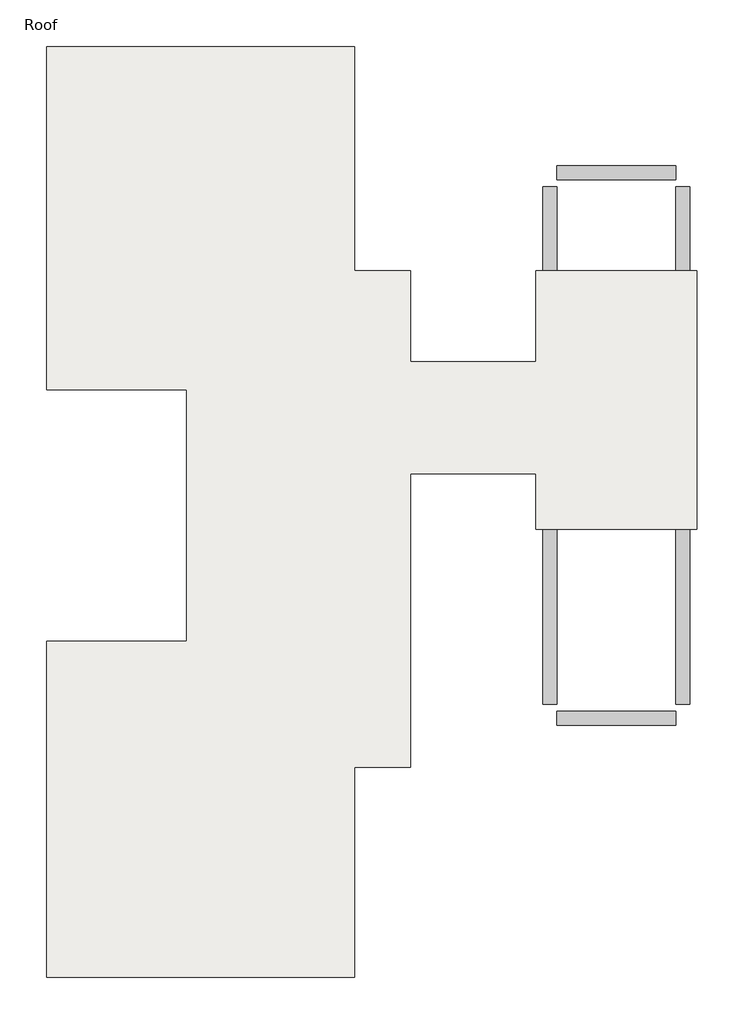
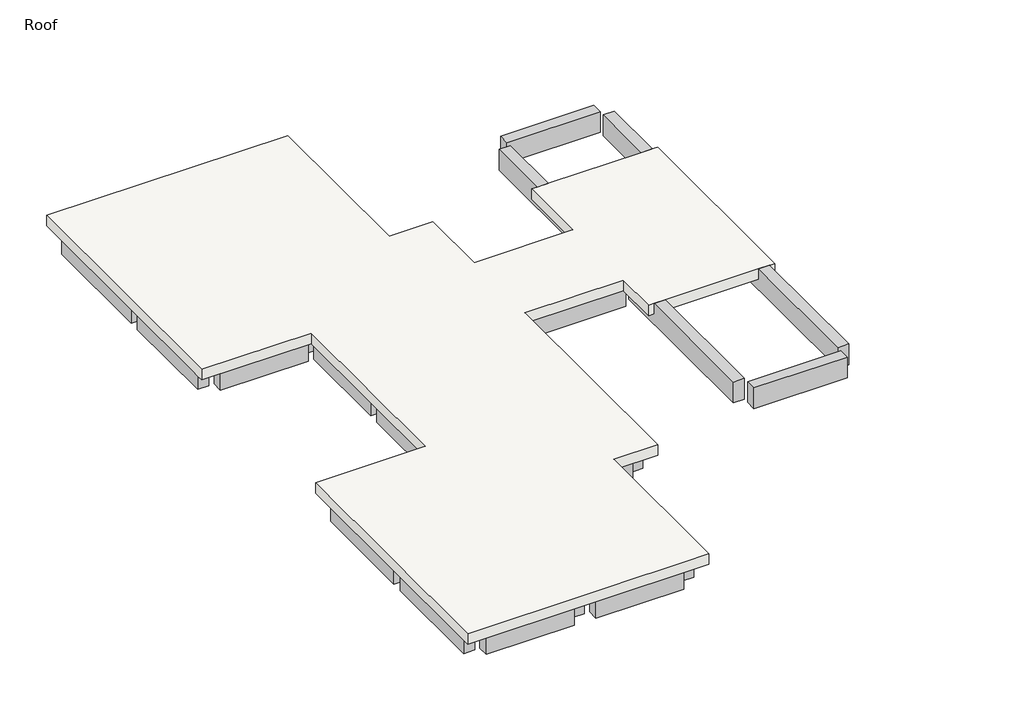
# One storey: 45 beams, 1 slab.
"""IFC4 building model written with IfcOpenShell, lengths in millimetres."""

import ifcopenshell
import ifcopenshell.guid

model = None  # the IFC model being written
_history = None  # IfcOwnerHistory: only IFC2X3 demands one
_inside = {}  # id of a spatial element -> (the spatial element, [elements in it])
_under = {}  # id of a project, library or spatial element -> (it, [spatial elements below it])
_declared = {}  # id of a project -> (the project, [libraries it declares])
_typed = {}  # id of a type object -> (the type object, [elements of that type])
_made_of = {}  # id of a material, layer set ... -> (it, [elements and type objects made of it])


def new_model(schema):
    """Start an empty IFC model of exactly this schema.

    Asked for "IFC4X3", IfcOpenShell would pick the latest addendum, in which some entities
    have other attributes; the version numbers below select the first issue.
    IFC2X3 requires an IfcOwnerHistory on every rooted entity: one is made here for all.
    """
    global model, _history
    if schema == "IFC4X3":
        model = ifcopenshell.file(schema_version=(4, 3, 0, 0))
    else:
        model = ifcopenshell.file(schema=schema)
    _inside.clear()
    _under.clear()
    _declared.clear()
    _typed.clear()
    _made_of.clear()
    _history = None
    if model.schema == "IFC2X3":
        org = make("IfcOrganization", Name="unknown")
        user = make(
            "IfcPersonAndOrganization",
            ThePerson=make("IfcPerson", FamilyName="unknown"),
            TheOrganization=org,
        )
        app = make(
            "IfcApplication",
            ApplicationDeveloper=org,
            Version="unknown",
            ApplicationFullName="unknown",
            ApplicationIdentifier="unknown",
        )
        _history = make(
            "IfcOwnerHistory",
            OwningUser=user,
            OwningApplication=app,
            ChangeAction="ADDED",
            CreationDate=0,
        )
    return model


def make(cls, **values):
    """One entity of the class cls with the attributes given. An attribute that is None is left unset."""
    return model.create_entity(
        cls, **{name: value for name, value in values.items() if value is not None}
    )


def rooted(cls, **values):
    """An entity with a GlobalId (a new one), such as an element, a storey or a relation."""
    return make(cls, GlobalId=ifcopenshell.guid.new(), OwnerHistory=_history, **values)


def si_unit(unit_type, name, prefix=None):
    """IfcSIUnit, for example si_unit("LENGTHUNIT", "METRE", prefix="MILLI")."""
    return make("IfcSIUnit", UnitType=unit_type, Prefix=prefix, Name=name)


def assignment(units):
    """IfcUnitAssignment: the units of a project."""
    return None if units is None else make("IfcUnitAssignment", Units=units)


def point(xyz):
    """IfcCartesianPoint."""
    return None if xyz is None else make("IfcCartesianPoint", Coordinates=xyz)


def direction(xyz):
    """IfcDirection."""
    return None if xyz is None else make("IfcDirection", DirectionRatios=xyz)


def frame(location, z_axis=None, x_axis=None):
    """IfcAxis2Placement3D, a coordinate frame: its origin and axes. An axis left out is left unset."""
    return make(
        "IfcAxis2Placement3D",
        Location=point(location),
        Axis=direction(z_axis),
        RefDirection=direction(x_axis),
    )


def origin():
    """The frame at (0, 0, 0) with its axes left unset."""
    return frame((0.0, 0.0, 0.0))


def place(relative_to, where):
    """IfcLocalPlacement: puts the frame where relative to a parent placement (None: the world)."""
    return make(
        "IfcLocalPlacement", PlacementRelTo=relative_to, RelativePlacement=where
    )


def context(
    kind, dimensions, precision=None, world=None, true_north=None, identifier=None
):
    """IfcGeometricRepresentationContext, for example the 3D "Model" context."""
    return make(
        "IfcGeometricRepresentationContext",
        ContextIdentifier=identifier,
        ContextType=kind,
        CoordinateSpaceDimension=dimensions,
        Precision=precision,
        WorldCoordinateSystem=world,
        TrueNorth=true_north,
    )


def project(units=None, contexts=None):
    """IfcProject with its units and contexts."""
    return rooted(
        "IfcProject",
        Name="project",
        RepresentationContexts=contexts,
        UnitsInContext=assignment(units),
    )


def spatial(cls, under=None, at=None, **own):
    """A site, building, storey or space (cls), placed at a placement, below another one or the project."""
    s = rooted(cls, ObjectPlacement=at, **own)
    if under is not None:
        _under.setdefault(under.id(), (under, []))[1].append(s)
    return s


def polyline(points):
    """IfcPolyline through the points."""
    return make("IfcPolyline", Points=[point(p) for p in points])


def outline(outer, holes=None, kind="AREA"):
    """IfcArbitraryClosedProfileDef: a profile drawn as a closed curve; with holes, ...WithVoids."""
    if holes is None:
        return make("IfcArbitraryClosedProfileDef", ProfileType=kind, OuterCurve=outer)
    return make(
        "IfcArbitraryProfileDefWithVoids",
        ProfileType=kind,
        OuterCurve=outer,
        InnerCurves=holes,
    )


def extrude(swept, where, along, depth):
    """IfcExtrudedAreaSolid: the profile swept, set in the frame where, extruded along a direction by depth."""
    return make(
        "IfcExtrudedAreaSolid",
        SweptArea=swept,
        Position=where,
        ExtrudedDirection=direction(along),
        Depth=depth,
    )


def faces_of(points, faces, orient=None, outer=None):
    """IfcFace entities. A face is a list of loops; a loop is a list of indices into points, from 0.

    orient and outer hold one flag for each loop. By default every Orientation is true, the
    first loop of a face is its IfcFaceOuterBound and the others are IfcFaceBound.
    """
    made = []
    for i, loops in enumerate(faces):
        bounds = []
        for j, loop in enumerate(loops):
            is_outer = j == 0 if outer is None else outer[i][j]
            bounds.append(
                make(
                    "IfcFaceOuterBound" if is_outer else "IfcFaceBound",
                    Bound=make("IfcPolyLoop", Polygon=[points[k] for k in loop]),
                    Orientation=True if orient is None else orient[i][j],
                )
            )
        made.append(make("IfcFace", Bounds=bounds))
    return made


def faceted_brep(points, faces, orient=None, outer=None, voids=None):
    """IfcFacetedBrep: a solid bounded by flat faces; with voids (closed shells), ...WithVoids."""
    shared = [point(p) for p in points]
    hull = make("IfcClosedShell", CfsFaces=faces_of(shared, faces, orient, outer))
    if voids is None:
        return make("IfcFacetedBrep", Outer=hull)
    return make(
        "IfcFacetedBrepWithVoids",
        Outer=hull,
        Voids=[
            make(cls, CfsFaces=faces_of(shared, fs, o, b)) for cls, fs, o, b in voids
        ],
    )


def shape(context_of_items, identifier, shape_type, items):
    """IfcShapeRepresentation: the items that make up one representation, for example the "Body"."""
    return make(
        "IfcShapeRepresentation",
        ContextOfItems=context_of_items,
        RepresentationIdentifier=identifier,
        RepresentationType=shape_type,
        Items=items,
    )


def made_of(thing, what):
    """Note that an element or type object is made of a material, layer set ...; save() writes the relation."""
    if what is not None:
        _made_of.setdefault(what.id(), (what, []))[1].append(thing)
    return thing


def element(
    cls,
    number,
    at=None,
    inside=None,
    cuts=None,
    type_object=None,
    material=None,
    context=None,
    identifier="Body",
    shape_type=None,
    held_by="IfcProductDefinitionShape",
    body=None,
    shapes=None,
    **own,
):
    """One element of the class cls, such as IfcWall. Its Tag is "e" and its number.

    at: its placement. inside: the storey or other place that contains it. cuts: it is an
    opening in that element (IfcRelVoidsElement). A single representation is given by context,
    identifier, shape_type and body (its items); several are given by shapes. held_by: the class
    of the entity that holds the representations. save() writes the other relations.
    """
    e = rooted(cls, Tag="e%d" % number, ObjectPlacement=at, **own)
    if body is not None:
        shapes = [shape(context, identifier, shape_type, body)]
    if shapes is not None:
        e.Representation = make(held_by, Representations=shapes)
    if inside is not None:
        _inside.setdefault(inside.id(), (inside, []))[1].append(e)
    if cuts is not None:
        rooted(
            "IfcRelVoidsElement", RelatingBuildingElement=cuts, RelatedOpeningElement=e
        )
    if type_object is not None:
        _typed.setdefault(type_object.id(), (type_object, []))[1].append(e)
    return made_of(e, material)


def aggregate(whole, parts):
    """IfcRelAggregates: a whole, such as a stair, and the parts it consists of."""
    return rooted("IfcRelAggregates", RelatingObject=whole, RelatedObjects=parts)


def save(model, path):
    """Write the relations noted so far, then the file.

    IfcRelAggregates (storeys below a building ...), IfcRelContainedInSpatialStructure (elements
    in a storey), IfcRelDefinesByType, IfcRelAssociatesMaterial and IfcRelDeclares: one each for
    every whole, place, type object, material and project.
    """
    for whole, parts in _under.values():
        aggregate(whole, parts)
    for where, things in _inside.values():
        rooted(
            "IfcRelContainedInSpatialStructure",
            RelatedElements=things,
            RelatingStructure=where,
        )
    for kind, things in _typed.values():
        rooted("IfcRelDefinesByType", RelatedObjects=things, RelatingType=kind)
    for what, things in _made_of.values():
        rooted("IfcRelAssociatesMaterial", RelatedObjects=things, RelatingMaterial=what)
    for by, libraries in _declared.values():
        rooted("IfcRelDeclares", RelatingContext=by, RelatedDefinitions=libraries)
    model.write(path)


model = new_model("IFC4")

# Units and contexts
model_context = context("Model", 3, world=origin())
ifc_project = project(units=[si_unit("LENGTHUNIT", "METRE", prefix="MILLI")], contexts=[model_context])

# Site, building, storey
site = spatial("IfcSite", under=ifc_project)
building = spatial("IfcBuilding", under=site)
storey = spatial("IfcBuildingStorey", under=building, Name="Roof", Elevation=7620.0)

# Beams
placement = place(None, origin())
element("IfcBeam", 1, ObjectType="Concrete-Rectangular Beam : 12 x 24", at=placement, inside=storey, context=model_context, shape_type="SweptSolid", body=[
    extrude(outline(polyline([(-12919.1663981, 10274.1487848), (-12919.1663981, 9969.3487848), (-15357.5663981, 9969.3487848), (-15357.5663981, 10274.1487848), (-12919.1663981, 10274.1487848)])), frame((0.0, 0.0, 6705.6), z_axis=(0.0, 0.0, 1.0), x_axis=(1.0, 0.0, 0.0)), (0.0, 0.0, 1.0), 609.6),
])
element("IfcBeam", 2, ObjectType="Concrete-Rectangular Beam : 12 x 24", at=placement, inside=storey, context=model_context, shape_type="SweptSolid", body=[
    extrude(outline(polyline([(-9871.1663981, 10274.1487848), (-9871.1663981, 9969.3487848), (-12309.5663981, 9969.3487848), (-12309.5663981, 10274.1487848), (-9871.1663981, 10274.1487848)])), frame((0.0, 0.0, 6705.6), z_axis=(0.0, 0.0, 1.0), x_axis=(1.0, 0.0, 0.0)), (0.0, 0.0, 1.0), 609.6),
])
element("IfcBeam", 3, ObjectType="Concrete-Rectangular Beam : 12 x 24", at=placement, inside=storey, context=model_context, shape_type="SweptSolid", body=[
    extrude(outline(polyline([(-15509.9663981, 6616.5487848), (-15814.7663981, 6616.5487848), (-15814.7663981, 9969.3487848), (-15509.9663981, 9969.3487848), (-15509.9663981, 6616.5487848)])), frame((0.0, 0.0, 6705.6), z_axis=(0.0, 0.0, 1.0), x_axis=(1.0, 0.0, 0.0)), (0.0, 0.0, 1.0), 609.6),
])
element("IfcBeam", 4, ObjectType="Concrete-Rectangular Beam : 12 x 24", at=placement, inside=storey, context=model_context, shape_type="SweptSolid", body=[
    extrude(outline(polyline([(-15509.9663981, 3416.1487848), (-15814.7663981, 3416.1487848), (-15814.7663981, 6311.7487848), (-15509.9663981, 6311.7487848), (-15509.9663981, 3416.1487848)])), frame((0.0, 0.0, 6705.6), z_axis=(0.0, 0.0, 1.0), x_axis=(1.0, 0.0, 0.0)), (0.0, 0.0, 1.0), 609.6),
])
element("IfcBeam", 5, ObjectType="Concrete-Rectangular Beam : 12 x 24", at=placement, inside=storey, context=model_context, shape_type="SweptSolid", body=[
    extrude(outline(polyline([(-9413.9663981, 6616.5487848), (-9718.7663981, 6616.5487848), (-9718.7663981, 9969.3487848), (-9413.9663981, 9969.3487848), (-9413.9663981, 6616.5487848)])), frame((0.0, 0.0, 6705.6), z_axis=(0.0, 0.0, 1.0), x_axis=(1.0, 0.0, 0.0)), (0.0, 0.0, 1.0), 609.6),
])
element("IfcBeam", 6, ObjectType="Concrete-Rectangular Beam : 12 x 24", at=placement, inside=storey, context=model_context, shape_type="SweptSolid", body=[
    extrude(outline(polyline([(-12461.9663981, 6616.5487848), (-12766.7663981, 6616.5487848), (-12766.7663981, 9969.3487848), (-12461.9663981, 9969.3487848), (-12461.9663981, 6616.5487848)])), frame((0.0, 0.0, 6705.6), z_axis=(0.0, 0.0, 1.0), x_axis=(1.0, 0.0, 0.0)), (0.0, 0.0, 1.0), 609.6),
])
element("IfcBeam", 7, ObjectType="Concrete-Rectangular Beam : 12 x 24", at=placement, inside=storey, context=model_context, shape_type="SweptSolid", body=[
    extrude(outline(polyline([(-12919.1663981, 6616.5487848), (-12919.1663981, 6311.7487848), (-15357.5663981, 6311.7487848), (-15357.5663981, 6616.5487848), (-12919.1663981, 6616.5487848)])), frame((0.0, 0.0, 6705.6), z_axis=(0.0, 0.0, 1.0), x_axis=(1.0, 0.0, 0.0)), (0.0, 0.0, 1.0), 609.6),
])
element("IfcBeam", 8, ObjectType="Concrete-Rectangular Beam : 12 x 24", at=placement, inside=storey, context=model_context, shape_type="SweptSolid", body=[
    extrude(outline(polyline([(-9871.1663981, 6616.5487848), (-9871.1663981, 6311.7487848), (-12309.5663981, 6311.7487848), (-12309.5663981, 6616.5487848), (-9871.1663981, 6616.5487848)])), frame((0.0, 0.0, 6705.6), z_axis=(0.0, 0.0, 1.0), x_axis=(1.0, 0.0, 0.0)), (0.0, 0.0, 1.0), 609.6),
])
element("IfcBeam", 9, ObjectType="Concrete-Rectangular Beam : 12 x 24", at=placement, inside=storey, context=model_context, shape_type="SweptSolid", body=[
    extrude(outline(polyline([(-12919.1663981, 3416.1487848), (-12919.1663981, 3111.3487848), (-15357.5663981, 3111.3487848), (-15357.5663981, 3416.1487848), (-12919.1663981, 3416.1487848)])), frame((0.0, 0.0, 6705.6), z_axis=(0.0, 0.0, 1.0), x_axis=(1.0, 0.0, 0.0)), (0.0, 0.0, 1.0), 609.6),
])
element("IfcBeam", 10, ObjectType="Concrete-Rectangular Beam : 12 x 24", at=placement, inside=storey, context=model_context, shape_type="SweptSolid", body=[
    extrude(outline(polyline([(-8651.9663981, 3416.1487848), (-8651.9663981, 3111.3487848), (-12309.5663981, 3111.3487848), (-12309.5663981, 3416.1487848), (-8651.9663981, 3416.1487848)])), frame((0.0, 0.0, 6705.6), z_axis=(0.0, 0.0, 1.0), x_axis=(1.0, 0.0, 0.0)), (0.0, 0.0, 1.0), 609.6),
])
element("IfcBeam", 11, ObjectType="Concrete-Rectangular Beam : 12 x 24", at=placement, inside=storey, context=model_context, shape_type="Brep", body=[
    faceted_brep([(-8651.9663981, 5092.5487848, 7315.2), (-8651.9663981, 5397.3487848, 7315.2), (-9413.9663981, 5397.3487848, 7315.2), (-9718.7663981, 5397.3487848, 7315.2), (-9718.7663981, 5092.5487848, 7315.2), (-8651.9663981, 5397.3487848, 6705.6), (-9413.9663981, 5397.3487848, 6705.6), (-9718.7663981, 5397.3487848, 6705.6), (-8651.9663981, 5092.5487848, 6705.6), (-9718.7663981, 5092.5487848, 6705.6)], [[[0, 1, 2, 3, 4]], [[1, 5, 6, 7, 3, 2]], [[5, 8, 9, 7, 6]], [[8, 0, 4, 9]], [[0, 8, 5, 1]], [[4, 3, 7, 9]]]),
])
element("IfcBeam", 12, ObjectType="Concrete-Rectangular Beam : 12 x 24", at=placement, inside=storey, context=model_context, shape_type="SweptSolid", body=[
    extrude(outline(polyline([(-9718.7663981, 6311.7487848), (-9413.9663981, 6311.7487848), (-9413.9663981, 5397.3487848), (-9718.7663981, 5397.3487848), (-9718.7663981, 6311.7487848)])), frame((0.0, 0.0, 6705.6), z_axis=(0.0, 0.0, 1.0), x_axis=(1.0, 0.0, 0.0)), (0.0, 0.0, 1.0), 609.6),
])
element("IfcBeam", 13, ObjectType="Concrete-Rectangular Beam : 12 x 24", at=placement, inside=storey, context=model_context, shape_type="SweptSolid", body=[
    extrude(outline(polyline([(-8194.7663981, 3416.1487848), (-8499.5663981, 3416.1487848), (-8499.5663981, 5092.5487848), (-8194.7663981, 5092.5487848), (-8194.7663981, 3416.1487848)])), frame((0.0, 0.0, 6705.6), z_axis=(0.0, 0.0, 1.0), x_axis=(1.0, 0.0, 0.0)), (0.0, 0.0, 1.0), 609.6),
])
element("IfcBeam", 14, ObjectType="Concrete-Rectangular Beam : 12 x 24", at=placement, inside=storey, context=model_context, shape_type="SweptSolid", body=[
    extrude(outline(polyline([(-12461.9663981, 3416.1487848), (-12766.7663981, 3416.1487848), (-12766.7663981, 6311.7487848), (-12461.9663981, 6311.7487848), (-12461.9663981, 3416.1487848)])), frame((0.0, 0.0, 6705.6), z_axis=(0.0, 0.0, 1.0), x_axis=(1.0, 0.0, 0.0)), (0.0, 0.0, 1.0), 609.6),
])
element("IfcBeam", 15, ObjectType="Concrete-Rectangular Beam : 12 x 24", at=placement, inside=storey, context=model_context, shape_type="SweptSolid", body=[
    extrude(outline(polyline([(-8042.3663981, 3111.3487848), (-8042.3663981, 3416.1487848), (-5146.7663981, 3416.1487848), (-5146.7663981, 3111.3487848), (-8042.3663981, 3111.3487848)])), frame((0.0, 0.0, 6705.6), z_axis=(0.0, 0.0, 1.0), x_axis=(1.0, 0.0, 0.0)), (0.0, 0.0, 1.0), 609.6),
])
element("IfcBeam", 16, ObjectType="Concrete-Rectangular Beam : 12 x 24", at=placement, inside=storey, context=model_context, shape_type="Brep", body=[
    faceted_brep([(-8499.5663981, 368.1487848, 7315.2), (-8194.7663981, 368.1487848, 7315.2), (-8194.7663981, 1282.5487848, 7315.2), (-8194.7663981, 1587.3487848, 7315.2), (-8194.7663981, 3111.3487848, 7315.2), (-8499.5663981, 3111.3487848, 7315.2), (-8499.5663981, 368.1487848, 6705.6), (-8499.5663981, 3111.3487848, 6705.6), (-8194.7663981, 368.1487848, 6705.6), (-8194.7663981, 3111.3487848, 6705.6), (-8194.7663981, 1587.3487848, 6705.6), (-8194.7663981, 1282.5487848, 6705.6)], [[[0, 1, 2, 3, 4, 5]], [[6, 0, 5, 7]], [[8, 6, 7, 9, 10, 11]], [[1, 8, 11, 10, 9, 4, 3, 2]], [[4, 9, 7, 5]], [[1, 0, 6, 8]]]),
])
element("IfcBeam", 17, ObjectType="Concrete-Rectangular Beam : 12 x 24", at=placement, inside=storey, context=model_context, shape_type="SweptSolid", body=[
    extrude(outline(polyline([(-8194.7663981, -2679.8512152), (-8499.5663981, -2679.8512152), (-8499.5663981, 63.3487848), (-8194.7663981, 63.3487848), (-8194.7663981, -2679.8512152)])), frame((0.0, 0.0, 6705.6), z_axis=(0.0, 0.0, 1.0), x_axis=(1.0, 0.0, 0.0)), (0.0, 0.0, 1.0), 609.6),
])
element("IfcBeam", 18, ObjectType="Concrete-Rectangular Beam : 12 x 24", at=placement, inside=storey, context=model_context, shape_type="SweptSolid", body=[
    extrude(outline(polyline([(-8194.7663981, -4813.4512152), (-8499.5663981, -4813.4512152), (-8499.5663981, -2984.6512152), (-8194.7663981, -2984.6512152), (-8194.7663981, -4813.4512152)])), frame((0.0, 0.0, 6705.6), z_axis=(0.0, 0.0, 1.0), x_axis=(1.0, 0.0, 0.0)), (0.0, 0.0, 1.0), 609.6),
])
element("IfcBeam", 19, ObjectType="Concrete-Rectangular Beam : 12 x 24", at=placement, inside=storey, context=model_context, shape_type="SweptSolid", body=[
    extrude(outline(polyline([(-8194.7663981, 1282.5487848), (-8194.7663981, 1587.3487848), (-5146.7663981, 1587.3487848), (-5146.7663981, 1282.5487848), (-8194.7663981, 1282.5487848)])), frame((0.0, 0.0, 6705.6), z_axis=(0.0, 0.0, 1.0), x_axis=(1.0, 0.0, 0.0)), (0.0, 0.0, 1.0), 609.6),
])
element("IfcBeam", 20, ObjectType="Concrete-Rectangular Beam : 12 x 24", at=placement, inside=storey, context=model_context, shape_type="SweptSolid", body=[
    extrude(outline(polyline([(-12461.9663981, 368.1487848), (-12766.7663981, 368.1487848), (-12766.7663981, 3111.3487848), (-12461.9663981, 3111.3487848), (-12461.9663981, 368.1487848)])), frame((0.0, 0.0, 6705.6), z_axis=(0.0, 0.0, 1.0), x_axis=(1.0, 0.0, 0.0)), (0.0, 0.0, 1.0), 609.6),
])
element("IfcBeam", 21, ObjectType="Concrete-Rectangular Beam : 12 x 24", at=placement, inside=storey, context=model_context, shape_type="SweptSolid", body=[
    extrude(outline(polyline([(-12461.9663981, -2679.8512152), (-12766.7663981, -2679.8512152), (-12766.7663981, 63.3487848), (-12461.9663981, 63.3487848), (-12461.9663981, -2679.8512152)])), frame((0.0, 0.0, 6705.6), z_axis=(0.0, 0.0, 1.0), x_axis=(1.0, 0.0, 0.0)), (0.0, 0.0, 1.0), 609.6),
])
element("IfcBeam", 22, ObjectType="Concrete-Rectangular Beam : 12 x 24", at=placement, inside=storey, context=model_context, shape_type="SweptSolid", body=[
    extrude(outline(polyline([(-12919.1663981, -2679.8512152), (-12919.1663981, -2984.6512152), (-15357.5663981, -2984.6512152), (-15357.5663981, -2679.8512152), (-12919.1663981, -2679.8512152)])), frame((0.0, 0.0, 6705.6), z_axis=(0.0, 0.0, 1.0), x_axis=(1.0, 0.0, 0.0)), (0.0, 0.0, 1.0), 609.6),
])
element("IfcBeam", 23, ObjectType="Concrete-Rectangular Beam : 12 x 24", at=placement, inside=storey, context=model_context, shape_type="SweptSolid", body=[
    extrude(outline(polyline([(-8651.9663981, -2679.8512152), (-8651.9663981, -2984.6512152), (-12309.5663981, -2984.6512152), (-12309.5663981, -2679.8512152), (-8651.9663981, -2679.8512152)])), frame((0.0, 0.0, 6705.6), z_axis=(0.0, 0.0, 1.0), x_axis=(1.0, 0.0, 0.0)), (0.0, 0.0, 1.0), 609.6),
])
element("IfcBeam", 24, ObjectType="Concrete-Rectangular Beam : 12 x 24", at=placement, inside=storey, context=model_context, shape_type="SweptSolid", body=[
    extrude(outline(polyline([(-8651.9663981, 368.1487848), (-8651.9663981, 63.3487848), (-12309.5663981, 63.3487848), (-12309.5663981, 368.1487848), (-8651.9663981, 368.1487848)])), frame((0.0, 0.0, 6705.6), z_axis=(0.0, 0.0, 1.0), x_axis=(1.0, 0.0, 0.0)), (0.0, 0.0, 1.0), 609.6),
])
element("IfcBeam", 25, ObjectType="Concrete-Rectangular Beam : 12 x 24", at=placement, inside=storey, context=model_context, shape_type="SweptSolid", body=[
    extrude(outline(polyline([(-15509.9663981, -6032.6512152), (-15814.7663981, -6032.6512152), (-15814.7663981, -2984.6512152), (-15509.9663981, -2984.6512152), (-15509.9663981, -6032.6512152)])), frame((0.0, 0.0, 6705.6), z_axis=(0.0, 0.0, 1.0), x_axis=(1.0, 0.0, 0.0)), (0.0, 0.0, 1.0), 609.6),
])
element("IfcBeam", 26, ObjectType="Concrete-Rectangular Beam : 12 x 24", at=placement, inside=storey, context=model_context, shape_type="SweptSolid", body=[
    extrude(outline(polyline([(-12919.1663981, -6032.6512152), (-12919.1663981, -6337.4512152), (-15357.5663981, -6337.4512152), (-15357.5663981, -6032.6512152), (-12919.1663981, -6032.6512152)])), frame((0.0, 0.0, 6705.6), z_axis=(0.0, 0.0, 1.0), x_axis=(1.0, 0.0, 0.0)), (0.0, 0.0, 1.0), 609.6),
])
element("IfcBeam", 27, ObjectType="Concrete-Rectangular Beam : 12 x 24", at=placement, inside=storey, context=model_context, shape_type="SweptSolid", body=[
    extrude(outline(polyline([(-9871.1663981, -6032.6512152), (-9871.1663981, -6337.4512152), (-12309.5663981, -6337.4512152), (-12309.5663981, -6032.6512152), (-9871.1663981, -6032.6512152)])), frame((0.0, 0.0, 6705.6), z_axis=(0.0, 0.0, 1.0), x_axis=(1.0, 0.0, 0.0)), (0.0, 0.0, 1.0), 609.6),
])
element("IfcBeam", 28, ObjectType="Concrete-Rectangular Beam : 12 x 24", at=placement, inside=storey, context=model_context, shape_type="SweptSolid", body=[
    extrude(outline(polyline([(-12461.9663981, -6032.6512152), (-12766.7663981, -6032.6512152), (-12766.7663981, -2984.6512152), (-12461.9663981, -2984.6512152), (-12461.9663981, -6032.6512152)])), frame((0.0, 0.0, 6705.6), z_axis=(0.0, 0.0, 1.0), x_axis=(1.0, 0.0, 0.0)), (0.0, 0.0, 1.0), 609.6),
])
element("IfcBeam", 29, ObjectType="Concrete-Rectangular Beam : 12 x 24", at=placement, inside=storey, context=model_context, shape_type="SweptSolid", body=[
    extrude(outline(polyline([(-15509.9663981, -9385.4512152), (-15814.7663981, -9385.4512152), (-15814.7663981, -6337.4512152), (-15509.9663981, -6337.4512152), (-15509.9663981, -9385.4512152)])), frame((0.0, 0.0, 6705.6), z_axis=(0.0, 0.0, 1.0), x_axis=(1.0, 0.0, 0.0)), (0.0, 0.0, 1.0), 609.6),
])
element("IfcBeam", 30, ObjectType="Concrete-Rectangular Beam : 12 x 24", at=placement, inside=storey, context=model_context, shape_type="SweptSolid", body=[
    extrude(outline(polyline([(-12919.1663981, -9385.4512152), (-12919.1663981, -9690.2512152), (-15357.5663981, -9690.2512152), (-15357.5663981, -9385.4512152), (-12919.1663981, -9385.4512152)])), frame((0.0, 0.0, 6705.6), z_axis=(0.0, 0.0, 1.0), x_axis=(1.0, 0.0, 0.0)), (0.0, 0.0, 1.0), 609.6),
])
element("IfcBeam", 31, ObjectType="Concrete-Rectangular Beam : 12 x 24", at=placement, inside=storey, context=model_context, shape_type="SweptSolid", body=[
    extrude(outline(polyline([(-9871.1663981, -9385.4512152), (-9871.1663981, -9690.2512152), (-12309.5663981, -9690.2512152), (-12309.5663981, -9385.4512152), (-9871.1663981, -9385.4512152)])), frame((0.0, 0.0, 6705.6), z_axis=(0.0, 0.0, 1.0), x_axis=(1.0, 0.0, 0.0)), (0.0, 0.0, 1.0), 609.6),
])
element("IfcBeam", 32, ObjectType="Concrete-Rectangular Beam : 12 x 24", at=placement, inside=storey, context=model_context, shape_type="SweptSolid", body=[
    extrude(outline(polyline([(-12461.9663981, -9385.4512152), (-12766.7663981, -9385.4512152), (-12766.7663981, -6337.4512152), (-12461.9663981, -6337.4512152), (-12461.9663981, -9385.4512152)])), frame((0.0, 0.0, 6705.6), z_axis=(0.0, 0.0, 1.0), x_axis=(1.0, 0.0, 0.0)), (0.0, 0.0, 1.0), 609.6),
])
element("IfcBeam", 33, ObjectType="Concrete-Rectangular Beam : 12 x 24", at=placement, inside=storey, context=model_context, shape_type="SweptSolid", body=[
    extrude(outline(polyline([(-9413.9663981, -9385.4512152), (-9718.7663981, -9385.4512152), (-9718.7663981, -6337.4512152), (-9413.9663981, -6337.4512152), (-9413.9663981, -9385.4512152)])), frame((0.0, 0.0, 6705.6), z_axis=(0.0, 0.0, 1.0), x_axis=(1.0, 0.0, 0.0)), (0.0, 0.0, 1.0), 609.6),
])
element("IfcBeam", 34, ObjectType="Concrete-Rectangular Beam : 12 x 24", at=placement, inside=storey, context=model_context, shape_type="Brep", body=[
    faceted_brep([(-9718.7663981, -6032.6512152, 7315.2), (-9413.9663981, -6032.6512152, 7315.2), (-9413.9663981, -5118.2512152, 7315.2), (-9413.9663981, -4813.4512152, 7315.2), (-9718.7663981, -4813.4512152, 7315.2), (-9413.9663981, -6032.6512152, 6705.6), (-9413.9663981, -5118.2512152, 6705.6), (-9413.9663981, -4813.4512152, 6705.6), (-9718.7663981, -6032.6512152, 6705.6), (-9718.7663981, -4813.4512152, 6705.6)], [[[0, 1, 2, 3, 4]], [[1, 5, 6, 7, 3, 2]], [[5, 8, 9, 7, 6]], [[8, 0, 4, 9]], [[0, 8, 5, 1]], [[4, 3, 7, 9]]]),
])
element("IfcBeam", 35, ObjectType="Concrete-Rectangular Beam : 12 x 24", at=placement, inside=storey, context=model_context, shape_type="SweptSolid", body=[
    extrude(outline(polyline([(-8651.9663981, -4813.4512152), (-8651.9663981, -5118.2512152), (-9413.9663981, -5118.2512152), (-9413.9663981, -4813.4512152), (-8651.9663981, -4813.4512152)])), frame((0.0, 0.0, 6705.6), z_axis=(0.0, 0.0, 1.0), x_axis=(1.0, 0.0, 0.0)), (0.0, 0.0, 1.0), 609.6),
])
element("IfcBeam", 36, ObjectType="Concrete-Rectangular Beam : 12 x 24", at=placement, inside=storey, context=model_context, shape_type="SweptSolid", body=[
    extrude(outline(polyline([(-4841.9663981, 3111.3487848), (-4841.9663981, 3416.1487848), (-2251.1663981, 3416.1487848), (-2251.1663981, 3111.3487848), (-4841.9663981, 3111.3487848)])), frame((0.0, 0.0, 6705.6), z_axis=(0.0, 0.0, 1.0), x_axis=(1.0, 0.0, 0.0)), (0.0, 0.0, 1.0), 609.6),
])
element("IfcBeam", 37, ObjectType="Concrete-Rectangular Beam : 12 x 24", at=placement, inside=storey, context=model_context, shape_type="SweptSolid", body=[
    extrude(outline(polyline([(-4841.9663981, 1282.5487848), (-4841.9663981, 1587.3487848), (-2251.1663981, 1587.3487848), (-2251.1663981, 1282.5487848), (-4841.9663981, 1282.5487848)])), frame((0.0, 0.0, 6705.6), z_axis=(0.0, 0.0, 1.0), x_axis=(1.0, 0.0, 0.0)), (0.0, 0.0, 1.0), 609.6),
])
element("IfcBeam", 38, ObjectType="Concrete-Rectangular Beam : 12 x 24", at=placement, inside=storey, context=model_context, shape_type="SweptSolid", body=[
    extrude(outline(polyline([(1130.1487848, 7010.4), (-3899.0512152, 7010.4), (-3899.0512152, 7620.0), (-89.0512152, 7620.0), (-89.0512152, 7315.2), (1130.1487848, 7315.2), (1130.1487848, 7010.4)])), frame((-5146.7663981, 0.0, 0.0), z_axis=(1.0, 0.0, 0.0), x_axis=(0.0, 1.0, 0.0)), (0.0, 0.0, 1.0), 304.8),
])
element("IfcBeam", 39, ObjectType="Concrete-Rectangular Beam : 12 x 24", at=placement, inside=storey, context=model_context, shape_type="SweptSolid", body=[
    extrude(outline(polyline([(-4841.9663981, 2958.9487848), (-4841.9663981, 1739.7487848), (-5146.7663981, 1739.7487848), (-5146.7663981, 2958.9487848), (-4841.9663981, 2958.9487848)])), frame((0.0, 0.0, 7010.4), z_axis=(0.0, 0.0, 1.0), x_axis=(1.0, 0.0, 0.0)), (0.0, 0.0, 1.0), 304.8),
])
element("IfcBeam", 40, ObjectType="Concrete-Rectangular Beam : 12 x 24", at=placement, inside=storey, context=model_context, shape_type="SweptSolid", body=[
    extrude(outline(polyline([(7378.5487848, 7010.4), (3568.5487848, 7010.4), (3568.5487848, 7315.2), (5549.7487848, 7315.2), (5549.7487848, 7620.0), (7378.5487848, 7620.0), (7378.5487848, 7010.4)])), frame((-5146.7663981, 0.0, 0.0), z_axis=(1.0, 0.0, 0.0), x_axis=(0.0, 1.0, 0.0)), (0.0, 0.0, 1.0), 304.8),
])
element("IfcBeam", 41, ObjectType="Concrete-Rectangular Beam : 12 x 24", at=placement, inside=storey, context=model_context, shape_type="SweptSolid", body=[
    extrude(outline(polyline([(-2251.1663981, 7835.7487848), (-2251.1663981, 7530.9487848), (-4841.9663981, 7530.9487848), (-4841.9663981, 7835.7487848), (-2251.1663981, 7835.7487848)])), frame((0.0, 0.0, 7010.4), z_axis=(0.0, 0.0, 1.0), x_axis=(1.0, 0.0, 0.0)), (0.0, 0.0, 1.0), 609.6),
])
element("IfcBeam", 42, ObjectType="Concrete-Rectangular Beam : 12 x 24", at=placement, inside=storey, context=model_context, shape_type="SweptSolid", body=[
    extrude(outline(polyline([(7378.5487848, 7010.4), (3568.5487848, 7010.4), (3568.5487848, 7315.2), (5549.7487848, 7315.2), (5549.7487848, 7620.0), (7378.5487848, 7620.0), (7378.5487848, 7010.4)])), frame((-2251.1663981, 0.0, 0.0), z_axis=(1.0, 0.0, 0.0), x_axis=(0.0, 1.0, 0.0)), (0.0, 0.0, 1.0), 304.8),
])
element("IfcBeam", 43, ObjectType="Concrete-Rectangular Beam : 12 x 24", at=placement, inside=storey, context=model_context, shape_type="SweptSolid", body=[
    extrude(outline(polyline([(-2251.1663981, 1739.7487848), (-2251.1663981, 2958.9487848), (-1946.3663981, 2958.9487848), (-1946.3663981, 1739.7487848), (-2251.1663981, 1739.7487848)])), frame((0.0, 0.0, 7010.4), z_axis=(0.0, 0.0, 1.0), x_axis=(1.0, 0.0, 0.0)), (0.0, 0.0, 1.0), 304.8),
])
element("IfcBeam", 44, ObjectType="Concrete-Rectangular Beam : 12 x 24", at=placement, inside=storey, context=model_context, shape_type="SweptSolid", body=[
    extrude(outline(polyline([(1130.1487848, 7010.4), (-3899.0512152, 7010.4), (-3899.0512152, 7620.0), (-89.0512152, 7620.0), (-89.0512152, 7315.2), (1130.1487848, 7315.2), (1130.1487848, 7010.4)])), frame((-2251.1663981, 0.0, 0.0), z_axis=(1.0, 0.0, 0.0), x_axis=(0.0, 1.0, 0.0)), (0.0, 0.0, 1.0), 304.8),
])
element("IfcBeam", 45, ObjectType="Concrete-Rectangular Beam : 12 x 24", at=placement, inside=storey, context=model_context, shape_type="SweptSolid", body=[
    extrude(outline(polyline([(-2251.1663981, -4051.4512152), (-2251.1663981, -4356.2512152), (-4841.9663981, -4356.2512152), (-4841.9663981, -4051.4512152), (-2251.1663981, -4051.4512152)])), frame((0.0, 0.0, 7010.4), z_axis=(0.0, 0.0, 1.0), x_axis=(1.0, 0.0, 0.0)), (0.0, 0.0, 1.0), 609.6),
])

# Slab
element("IfcSlab", 46, ObjectType="Generic - 12\"", at=placement, inside=storey, context=model_context, shape_type="Brep", body=[
    faceted_brep([(-9261.5663981, 10426.5487848, 7315.2), (-9261.5663981, 10274.1487848, 7315.2), (-9261.5663981, 9969.3487848, 7315.2), (-9261.5663981, 6616.5487848, 7315.2), (-9261.5663981, 6311.7487848, 7315.2), (-9261.5663981, 5549.7487848, 7315.2), (-8042.3663981, 5549.7487848, 7315.2), (-8042.3663981, 5397.3487848, 7315.2), (-8042.3663981, 5092.5487848, 7315.2), (-8042.3663981, 3568.5487848, 7315.2), (-5299.1663981, 3568.5487848, 7315.2), (-5299.1663981, 5549.7487848, 7315.2), (-5146.7663981, 5549.7487848, 7315.2), (-4841.9663981, 5549.7487848, 7315.2), (-2251.1663981, 5549.7487848, 7315.2), (-1946.3663981, 5549.7487848, 7315.2), (-1793.9663981, 5549.7487848, 7315.2), (-1793.9663981, -89.0512152, 7315.2), (-1946.3663981, -89.0512152, 7315.2), (-2251.1663981, -89.0512152, 7315.2), (-4841.9663981, -89.0512152, 7315.2), (-5146.7663981, -89.0512152, 7315.2), (-5299.1663981, -89.0512152, 7315.2), (-5299.1663981, 1130.1487848, 7315.2), (-8042.3663981, 1130.1487848, 7315.2), (-8042.3663981, 368.1487848, 7315.2), (-8042.3663981, 63.3487848, 7315.2), (-8042.3663981, -2679.8512152, 7315.2), (-8042.3663981, -2984.6512152, 7315.2), (-8042.3663981, -4813.4512152, 7315.2), (-8042.3663981, -5118.2512152, 7315.2), (-8042.3663981, -5270.6512152, 7315.2), (-9261.5663981, -5270.6512152, 7315.2), (-9261.5663981, -6032.6512152, 7315.2), (-9261.5663981, -6337.4512152, 7315.2), (-9261.5663981, -9385.4512152, 7315.2), (-9261.5663981, -9690.2512152, 7315.2), (-9261.5663981, -9842.6512152, 7315.2), (-15967.1663981, -9842.6512152, 7315.2), (-15967.1663981, -9690.2512152, 7315.2), (-15967.1663981, -9385.4512152, 7315.2), (-15967.1663981, -6337.4512152, 7315.2), (-15967.1663981, -6032.6512152, 7315.2), (-15967.1663981, -2984.6512152, 7315.2), (-15967.1663981, -2679.8512152, 7315.2), (-15967.1663981, -2527.4512152, 7315.2), (-12919.1663981, -2527.4512152, 7315.2), (-12919.1663981, 63.3487848, 7315.2), (-12919.1663981, 368.1487848, 7315.2), (-12919.1663981, 2958.9487848, 7315.2), (-15967.1663981, 2958.9487848, 7315.2), (-15967.1663981, 3111.3487848, 7315.2), (-15967.1663981, 3416.1487848, 7315.2), (-15967.1663981, 6311.7487848, 7315.2), (-15967.1663981, 6616.5487848, 7315.2), (-15967.1663981, 9969.3487848, 7315.2), (-15967.1663981, 10274.1487848, 7315.2), (-15967.1663981, 10426.5487848, 7315.2), (-9261.5663981, 10426.5487848, 7620.0), (-15967.1663981, 10426.5487848, 7620.0), (-15967.1663981, 2958.9487848, 7620.0), (-12919.1663981, 2958.9487848, 7620.0), (-12919.1663981, -2527.4512152, 7620.0), (-15967.1663981, -2527.4512152, 7620.0), (-15967.1663981, -9842.6512152, 7620.0), (-9261.5663981, -9842.6512152, 7620.0), (-9261.5663981, -5270.6512152, 7620.0), (-8042.3663981, -5270.6512152, 7620.0), (-8042.3663981, 1130.1487848, 7620.0), (-5299.1663981, 1130.1487848, 7620.0), (-5299.1663981, -89.0512152, 7620.0), (-5146.7663981, -89.0512152, 7620.0), (-4841.9663981, -89.0512152, 7620.0), (-2251.1663981, -89.0512152, 7620.0), (-1946.3663981, -89.0512152, 7620.0), (-1793.9663981, -89.0512152, 7620.0), (-1793.9663981, 5549.7487848, 7620.0), (-1946.3663981, 5549.7487848, 7620.0), (-2251.1663981, 5549.7487848, 7620.0), (-4841.9663981, 5549.7487848, 7620.0), (-5146.7663981, 5549.7487848, 7620.0), (-5299.1663981, 5549.7487848, 7620.0), (-5299.1663981, 3568.5487848, 7620.0), (-8042.3663981, 3568.5487848, 7620.0), (-8042.3663981, 5549.7487848, 7620.0), (-9261.5663981, 5549.7487848, 7620.0)], [[[0, 1, 2, 3, 4, 5, 6, 7, 8, 9, 10, 11, 12, 13, 14, 15, 16, 17, 18, 19, 20, 21, 22, 23, 24, 25, 26, 27, 28, 29, 30, 31, 32, 33, 34, 35, 36, 37, 38, 39, 40, 41, 42, 43, 44, 45, 46, 47, 48, 49, 50, 51, 52, 53, 54, 55, 56, 57]], [[58, 59, 60, 61, 62, 63, 64, 65, 66, 67, 68, 69, 70, 71, 72, 73, 74, 75, 76, 77, 78, 79, 80, 81, 82, 83, 84, 85]], [[5, 4, 3, 2, 1, 0, 58, 85]], [[6, 5, 85, 84]], [[9, 8, 7, 6, 84, 83]], [[10, 9, 83, 82]], [[11, 10, 82, 81]], [[16, 15, 14, 13, 12, 11, 81, 80, 79, 78, 77, 76]], [[17, 16, 76, 75]], [[22, 21, 20, 19, 18, 17, 75, 74, 73, 72, 71, 70]], [[23, 22, 70, 69]], [[24, 23, 69, 68]], [[31, 30, 29, 28, 27, 26, 25, 24, 68, 67]], [[32, 31, 67, 66]], [[37, 36, 35, 34, 33, 32, 66, 65]], [[38, 37, 65, 64]], [[45, 44, 43, 42, 41, 40, 39, 38, 64, 63]], [[46, 45, 63, 62]], [[49, 48, 47, 46, 62, 61]], [[50, 49, 61, 60]], [[57, 56, 55, 54, 53, 52, 51, 50, 60, 59]], [[0, 57, 59, 58]]]),
])

save(model, "model.ifc")
